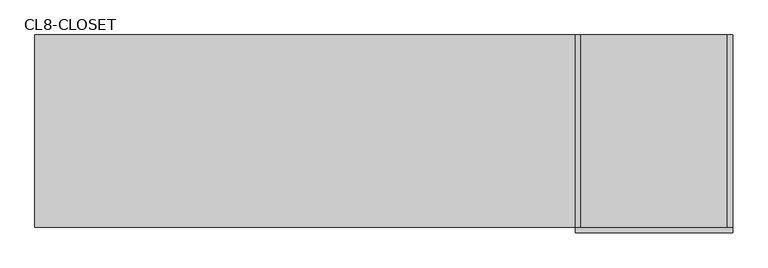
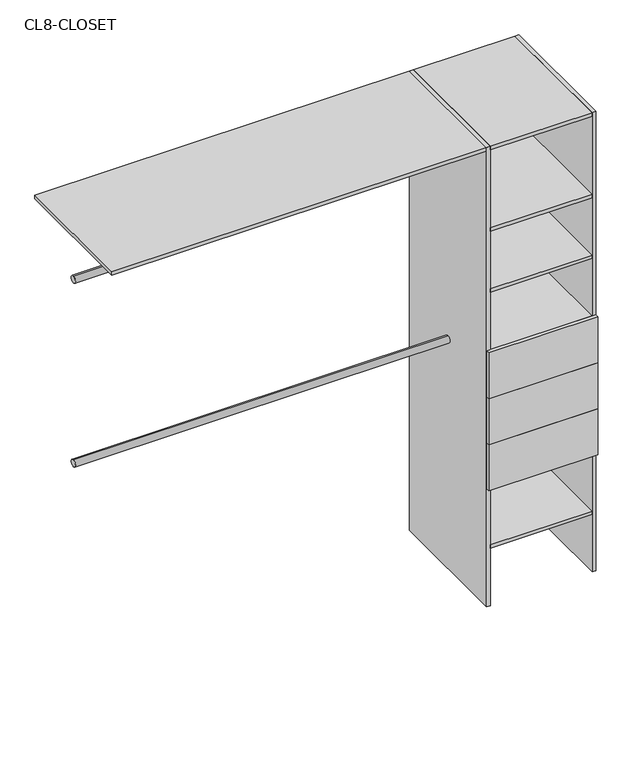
"""IFC4 building model written with IfcOpenShell, lengths in millimetres: furniture geometry, Closet 1estantes-1tubos_sin laterales : CL8-CLOSET."""

from ifc_helpers import new_model, si_unit, point, frame, frame_2d, origin, origin_with_axes, place, context, project, spatial, polyline, circle_curve, trimmed, segment, composite_curve, outline, extrude, source, transform, mapped, element, save


def cl8_closet_76781ce9(model_context):
    return source(origin(), model_context, "Body", "SweptSolid", [
        extrude(outline(polyline([(225.0, 100.0), (210.0, 100.0), (210.0, 650.0), (225.0, 650.0), (225.0, 100.0)])), origin_with_axes(), (0.0, 0.0, 1.0), 2000.0),
        extrude(outline(polyline([(-210.0, 100.0), (-225.0, 100.0), (-225.0, 650.0), (-210.0, 650.0), (-210.0, 100.0)])), origin_with_axes(), (0.0, 0.0, 1.0), 2000.0),
        extrude(outline(polyline([(225.0, 100.0), (225.0, 85.0), (-225.0, 85.0), (-225.0, 100.0), (225.0, 100.0)])), frame((0.0, 0.0, 915.0), z_axis=(0.0, 0.0, 1.0), x_axis=(1.0, 0.0, 0.0)), (0.0, 0.0, 1.0), 200.0),
        extrude(outline(polyline([(225.0, 100.0), (225.0, 85.0), (-225.0, 85.0), (-225.0, 100.0), (225.0, 100.0)])), frame((0.0, 0.0, 715.0), z_axis=(0.0, 0.0, 1.0), x_axis=(1.0, 0.0, 0.0)), (0.0, 0.0, 1.0), 200.0),
        extrude(outline(polyline([(225.0, 100.0), (225.0, 85.0), (-225.0, 85.0), (-225.0, 100.0), (225.0, 100.0)])), frame((0.0, 0.0, 515.0), z_axis=(0.0, 0.0, 1.0), x_axis=(1.0, 0.0, 0.0)), (0.0, 0.0, 1.0), 200.0),
        extrude(outline(polyline([(210.0, 100.0), (-210.0, 100.0), (-210.0, 600.0), (210.0, 600.0), (210.0, 100.0)])), frame((0.0, 0.0, 1100.0), z_axis=(0.0, 0.0, 1.0), x_axis=(1.0, 0.0, 0.0)), (0.0, 0.0, 1.0), 15.0),
        extrude(outline(composite_curve([segment(trimmed(circle_curve(frame_2d((375.0, 1000.0)), 15.0), [point((375.0, 1015.0))], [point((375.0, 985.0))], False, "CARTESIAN"), True, "CONTINUOUS"), segment(trimmed(circle_curve(frame_2d((375.0, 1000.0)), 15.0), [point((375.0, 985.0))], [point((375.0, 1015.0))], False, "CARTESIAN"), True, "CONTINUOUS")], self_intersect=False)), frame((-1770.0, 0.0, 0.0), z_axis=(1.0, 0.0, 0.0), x_axis=(0.0, 1.0, 0.0)), (0.0, 0.0, 1.0), 1545.0),
        extrude(outline(composite_curve([segment(trimmed(circle_curve(frame_2d((375.0, 1800.0)), 15.0), [point((375.0, 1815.0))], [point((375.0, 1785.0))], False, "CARTESIAN"), True, "CONTINUOUS"), segment(trimmed(circle_curve(frame_2d((375.0, 1800.0)), 15.0), [point((375.0, 1785.0))], [point((375.0, 1815.0))], False, "CARTESIAN"), True, "CONTINUOUS")], self_intersect=False)), frame((-1770.0, 0.0, 0.0), z_axis=(1.0, 0.0, 0.0), x_axis=(0.0, 1.0, 0.0)), (0.0, 0.0, 1.0), 1545.0),
        extrude(outline(polyline([(210.0, 100.0), (-210.0, 100.0), (-210.0, 650.0), (210.0, 650.0), (210.0, 100.0)])), frame((0.0, 0.0, 250.0), z_axis=(0.0, 0.0, 1.0), x_axis=(1.0, 0.0, 0.0)), (0.0, 0.0, 1.0), 15.0),
        extrude(outline(polyline([(210.0, 100.0), (-210.0, 100.0), (-210.0, 650.0), (210.0, 650.0), (210.0, 100.0)])), frame((0.0, 0.0, 515.0), z_axis=(0.0, 0.0, 1.0), x_axis=(1.0, 0.0, 0.0)), (0.0, 0.0, 1.0), 15.0),
        extrude(outline(polyline([(210.0, 100.0), (-210.0, 100.0), (-210.0, 650.0), (210.0, 650.0), (210.0, 100.0)])), frame((0.0, 0.0, 1365.0), z_axis=(0.0, 0.0, 1.0), x_axis=(1.0, 0.0, 0.0)), (0.0, 0.0, 1.0), 15.0),
        extrude(outline(polyline([(210.0, 100.0), (-210.0, 100.0), (-210.0, 650.0), (210.0, 650.0), (210.0, 100.0)])), frame((0.0, 0.0, 1630.0), z_axis=(0.0, 0.0, 1.0), x_axis=(1.0, 0.0, 0.0)), (0.0, 0.0, 1.0), 15.0),
        extrude(outline(polyline([(-210.0, 100.0), (-1770.0, 100.0), (-1770.0, 650.0), (-210.0, 650.0), (-210.0, 100.0)])), frame((0.0, 0.0, 1985.0), z_axis=(0.0, 0.0, 1.0), x_axis=(1.0, 0.0, 0.0)), (0.0, 0.0, 1.0), 15.0),
        extrude(outline(polyline([(210.0, 100.0), (-210.0, 100.0), (-210.0, 650.0), (210.0, 650.0), (210.0, 100.0)])), frame((0.0, 0.0, 1985.0), z_axis=(0.0, 0.0, 1.0), x_axis=(1.0, 0.0, 0.0)), (0.0, 0.0, 1.0), 15.0),
    ])


if __name__ == "__main__":
    model = new_model("IFC4")
    model_context = context("Model", 3, world=origin())
    ifc_project = project(units=[si_unit("LENGTHUNIT", "METRE", prefix="MILLI")], contexts=[model_context])
    site = spatial("IfcSite", under=ifc_project)
    building = spatial("IfcBuilding", under=site)
    placement = place(None, origin())
    cl8_closet_shape = cl8_closet_76781ce9(model_context)
    element("IfcFurniture", 1, ObjectType="Closet 1estantes-1tubos_sin laterales : CL8-CLOSET", at=placement, inside=building, context=model_context, shape_type="MappedRepresentation", body=[
        mapped(cl8_closet_shape, transform((0.0, 0.0, 0.0), x_axis=(1.0, 0.0, 0.0), y_axis=(0.0, 1.0, 0.0), z_axis=(0.0, 0.0, 1.0))),
    ])
    save(model, "model.ifc")
